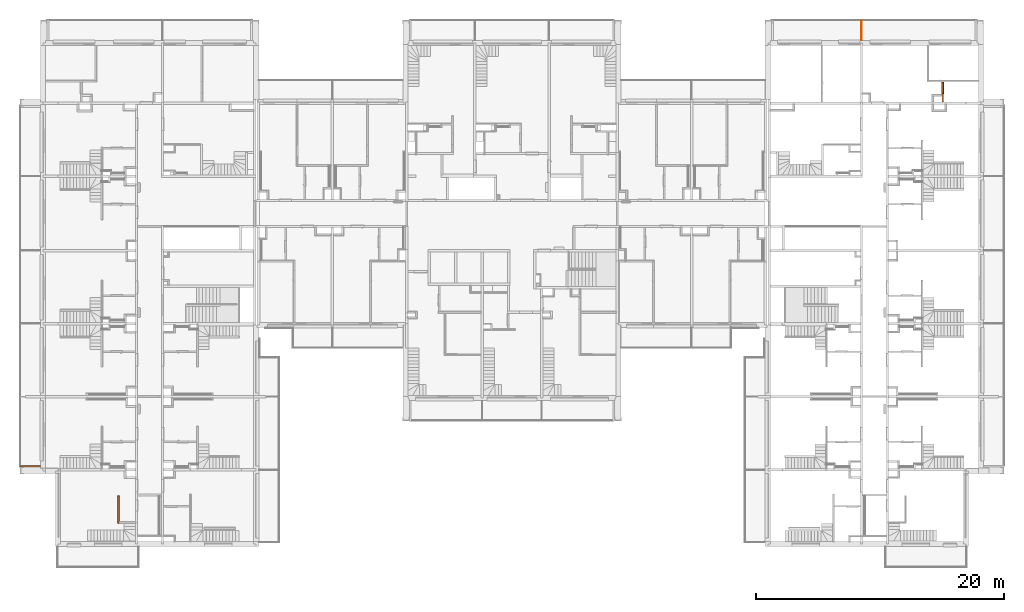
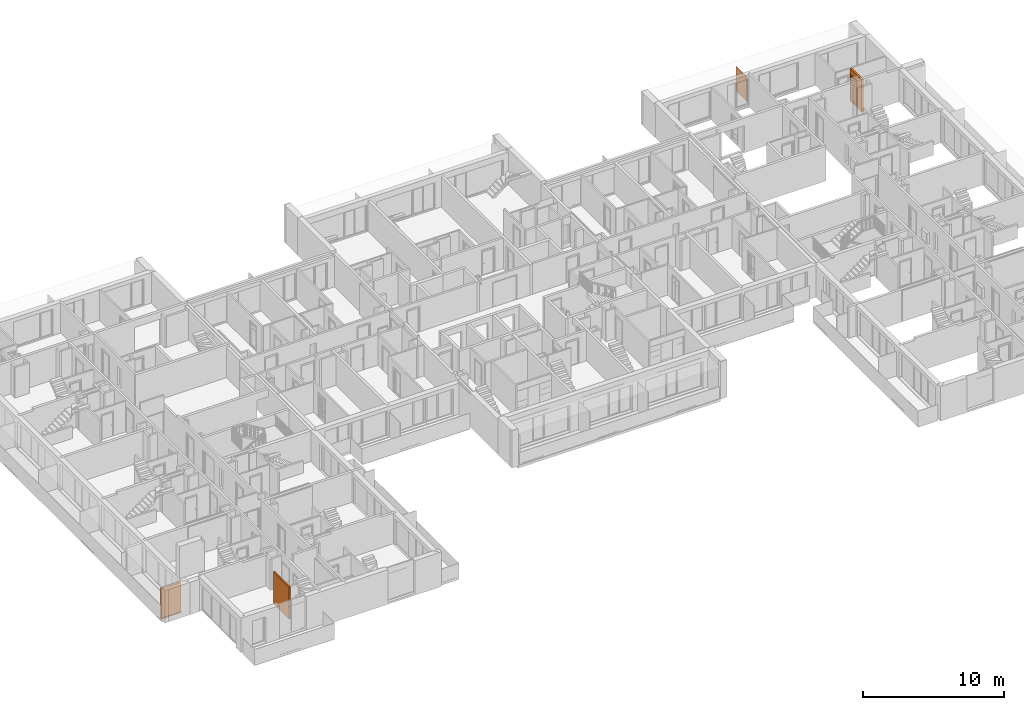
# One storey, part 36 of 61: 5 proxies, 1 opening.
"""IFC2X3 building model written with IfcOpenShell, lengths in millimetres."""

from ifc_helpers import new_model, entity, si_unit, converted_unit, derived_unit, money_unit, direction, frame, origin_with_axes, origin_2d_with_axis, place, context, subcontext, project, spatial, polyline, rectangle, outline, extrude, open_shell, faceted_brep, surface_model, source, transform, mapped, material, type_object, element, fill, save


model = new_model("IFC2X3")

# Units and contexts
model_context = context("Model", 3, precision=0.01, world=origin_with_axes(), true_north=direction((0.34421633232, 0.938890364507)))
body_context = subcontext(model_context, "Body", "Model", "MODEL_VIEW")
ifc_project = project(units=[si_unit("LENGTHUNIT", "METRE", prefix="MILLI"), si_unit("AREAUNIT", "SQUARE_METRE"), si_unit("VOLUMEUNIT", "CUBIC_METRE"), converted_unit("PLANEANGLEUNIT", "DEGREE", entity("IfcPlaneAngleMeasure", 0.0174532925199), si_unit("PLANEANGLEUNIT", "RADIAN"), dimensions=[0, 0, 0, 0, 0, 0, 0]), si_unit("SOLIDANGLEUNIT", "STERADIAN"), money_unit("USD"), converted_unit("TIMEUNIT", "Year", entity("IfcTimeMeasure", 31556926.0), si_unit("TIMEUNIT", "SECOND"), dimensions=[0, 0, 1, 0, 0, 0, 0]), si_unit("MASSUNIT", "GRAM", prefix="KILO"), si_unit("THERMODYNAMICTEMPERATUREUNIT", "DEGREE_CELSIUS"), si_unit("LUMINOUSINTENSITYUNIT", "LUMEN"), si_unit("ENERGYUNIT", "JOULE", prefix="MEGA"), derived_unit("THERMALCONDUCTANCEUNIT", [(si_unit("POWERUNIT", "WATT"), 1), (si_unit("LENGTHUNIT", "METRE"), -1), (si_unit("THERMODYNAMICTEMPERATUREUNIT", "KELVIN"), -1)]), derived_unit("SPECIFICHEATCAPACITYUNIT", [(si_unit("ENERGYUNIT", "JOULE"), 1), (si_unit("MASSUNIT", "GRAM", prefix="KILO"), -1), (si_unit("THERMODYNAMICTEMPERATUREUNIT", "KELVIN"), -1)]), derived_unit("MASSDENSITYUNIT", [(si_unit("MASSUNIT", "GRAM", prefix="KILO"), 1), (si_unit("VOLUMEUNIT", "CUBIC_METRE"), -1)])], contexts=[model_context])

# Site, building, storey
site_placement = place(None, origin_with_axes())
site = spatial("IfcSite", under=ifc_project, at=site_placement, Name="USTRONIE MORSKIE", CompositionType="ELEMENT")
building_placement = place(site_placement, origin_with_axes())
building = spatial("IfcBuilding", under=site, at=building_placement, Name="Budynek", CompositionType="ELEMENT")
storey_placement = place(building_placement, frame((0.0, 0.0, 13000.0), z_axis=(0.0, 0.0, 1.0), x_axis=(1.0, 0.0, 0.0)))
storey = spatial("IfcBuildingStorey", under=building, at=storey_placement, Name="PIĘTRO 4", CompositionType="ELEMENT", Elevation=13000.0)

# Proxy
ifc_material_1 = material(Name="Bloczki silikatowe")
building_element_proxy_type_1 = type_object("IfcBuildingElementProxyType", Name="Bloczki silikatowe 120", PredefinedType="NOTDEFINED")
proxy_1_placement = place(storey_placement, frame((356037.920919, 710861.199036, -160.0), z_axis=(0.0, 0.0, 1.0), x_axis=(0.0, 1.0, 0.0)))
element("IfcBuildingElementProxy", 1, at=proxy_1_placement, inside=storey, type_object=building_element_proxy_type_1, material=ifc_material_1, Name="SW-04", context=body_context, shape_type="Brep", body=[
    faceted_brep([(-59.9999999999, -60.0, 2800.0), (2139.99999956, -60.0, 2800.0), (2139.99999956, 60.0, 2800.0), (-59.9999999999, 60.0, 2800.0), (-59.9999999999, -60.0, 0.0), (2139.99999956, -60.0, 0.0), (2139.99999956, 60.0, 0.0), (-59.9999999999, 60.0, 0.0)], [[[0, 1, 2, 3]], [[4, 5, 1, 0]], [[2, 1, 5, 6]], [[3, 2, 6, 7]], [[4, 0, 3, 7]], [[7, 6, 5, 4]]]),
])

# Proxies, opening
building_element_proxy_type_2 = type_object("IfcBuildingElementProxyType", Name="Bloczki silikatowe 150", PredefinedType="NOTDEFINED")
proxy_2_placement = place(storey_placement, frame((422592.920919, 744701.199036, -160.0), z_axis=(0.0, 0.0, 1.0), x_axis=(0.0, 1.0, 0.0)))
proxy_2 = element("IfcBuildingElementProxy", 2, at=proxy_2_placement, inside=storey, type_object=building_element_proxy_type_2, material=ifc_material_1, Name="SW-03", context=body_context, shape_type="Brep", body=[
    faceted_brep([(1720.0, 75.0, 0.0), (1720.0, -75.0, 0.0), (100.0, -75.0, 0.0), (100.0, 75.0, 0.0), (1720.0, 75.0, 2800.0), (1720.0, -75.0, 2800.0), (100.0, -75.0, 2800.0), (100.0, 75.0, 2800.0)], [[[0, 1, 2, 3]], [[1, 0, 4, 5]], [[1, 5, 6, 2]], [[7, 3, 2, 6]], [[4, 0, 3, 7]], [[5, 4, 7, 6]]]),
])
opening_placement = place(proxy_2_placement, frame((1220.0, 0.0, 160.0), z_axis=(0.0, 0.0, 1.0), x_axis=(1.0, 0.0, 0.0)))
opening = element("IfcOpeningElement", 3, at=opening_placement, cuts=proxy_2, Name="Dw.4", context=body_context, shape_type="SweptSolid", body=[
    extrude(rectangle(XDim=920.0, YDim=2070.0, at=origin_2d_with_axis()), frame((0.0, -150.0, 1035.0), z_axis=(0.0, -1.0, 0.0), x_axis=(-1.0, 0.0, 0.0)), (0.0, 0.0, -1.0), 450.0),
    extrude(rectangle(XDim=994.0, YDim=2177.0, at=origin_2d_with_axis()), frame((0.0, -75.0, 1088.5), z_axis=(0.0, -1.0, 0.0), x_axis=(-1.0, 0.0, 0.0)), (0.0, 0.0, 1.0), 150.0),
    extrude(rectangle(XDim=994.0, YDim=2177.0, at=origin_2d_with_axis()), frame((0.0, 75.0, 1088.5), z_axis=(0.0, 1.0, 0.0), x_axis=(-1.0, 0.0, 0.0)), (0.0, 0.0, 1.0), 150.0),
])
building_element_proxy_type_3 = type_object("IfcBuildingElementProxyType", Name="Drzwi 23", PredefinedType="NOTDEFINED")
shared_shape = source(origin_with_axes(), body_context, "Body", "SurfaceModel", [
    faceted_brep([(460.0, -115.0, 0.0), (460.0, -150.0, 0.0), (435.0, -150.0, 0.0), (435.0, -115.0, 0.0), (460.0, -115.0, 2070.0), (460.0, -150.0, 2070.0), (435.0, -150.0, 2045.0), (435.0, -115.0, 2045.0)], [[[0, 1, 2, 3]], [[4, 5, 1, 0]], [[1, 5, 6, 2]], [[3, 2, 6, 7]], [[0, 3, 7, 4]], [[7, 6, 5, 4]]]),
    faceted_brep([(-460.0, -115.0, 2070.0), (-460.0, -150.0, 2070.0), (-435.0, -150.0, 2045.0), (-435.0, -115.0, 2045.0), (-460.0, -115.0, 0.0), (-460.0, -150.0, 0.0), (-435.0, -150.0, 0.0), (-435.0, -115.0, 0.0)], [[[0, 1, 2, 3]], [[4, 5, 1, 0]], [[1, 5, 6, 2]], [[3, 2, 6, 7]], [[0, 3, 7, 4]], [[7, 6, 5, 4]]]),
    faceted_brep([(435.0, -115.0, 2045.0), (435.0, -150.0, 2045.0), (-435.0, -150.0, 2045.0), (-435.0, -115.0, 2045.0), (460.0, -115.0, 2070.0), (460.0, -150.0, 2070.0), (-460.0, -150.0, 2070.0), (-460.0, -115.0, 2070.0)], [[[0, 1, 2, 3]], [[4, 5, 1, 0]], [[1, 5, 6, 2]], [[3, 2, 6, 7]], [[0, 3, 7, 4]], [[7, 6, 5, 4]]]),
    faceted_brep([(497.0, -169.0, 0.0), (447.0, -169.0, 0.0), (447.0, -150.0, 0.0), (497.0, -150.0, 0.0), (497.0, -169.0, 2177.0), (447.0, -169.0, 2057.0), (447.0, -150.0, 2057.0), (497.0, -150.0, 2177.0)], [[[0, 1, 2, 3]], [[0, 4, 5, 1]], [[1, 5, 6, 2]], [[3, 2, 6, 7]], [[4, 0, 3, 7]], [[5, 4, 7, 6]]]),
    faceted_brep([(-497.0, -169.0, 2177.0), (-447.0, -169.0, 2057.0), (-447.0, -150.0, 2057.0), (-497.0, -150.0, 2177.0), (-497.0, -169.0, 0.0), (-447.0, -169.0, 0.0), (-447.0, -150.0, 0.0), (-497.0, -150.0, 0.0)], [[[0, 1, 2, 3]], [[0, 4, 5, 1]], [[1, 5, 6, 2]], [[3, 2, 6, 7]], [[4, 0, 3, 7]], [[5, 4, 7, 6]]]),
    faceted_brep([(497.0, -169.0, 2177.0), (447.0, -169.0, 2057.0), (447.0, -150.0, 2057.0), (497.0, -150.0, 2177.0), (-497.0, -169.0, 2177.0), (-447.0, -169.0, 2057.0), (-447.0, -150.0, 2057.0), (-497.0, -150.0, 2177.0)], [[[0, 1, 2, 3]], [[0, 4, 5, 1]], [[1, 5, 6, 2]], [[3, 2, 6, 7]], [[4, 0, 3, 7]], [[5, 4, 7, 6]]]),
    faceted_brep([(497.0, 19.0, 0.0), (497.0, 0.0, 0.0), (447.0, 0.0, 0.0), (447.0, 19.0, 0.0), (497.0, 19.0, 2177.0), (497.0, 0.0, 2177.0), (447.0, 0.0, 2057.0), (447.0, 19.0, 2057.0)], [[[0, 1, 2, 3]], [[4, 5, 1, 0]], [[1, 5, 6, 2]], [[3, 2, 6, 7]], [[0, 3, 7, 4]], [[7, 6, 5, 4]]]),
    faceted_brep([(-497.0, 19.0, 2177.0), (-497.0, 0.0, 2177.0), (-447.0, 0.0, 2057.0), (-447.0, 19.0, 2057.0), (-497.0, 19.0, 0.0), (-497.0, 0.0, 0.0), (-447.0, 0.0, 0.0), (-447.0, 19.0, 0.0)], [[[0, 1, 2, 3]], [[4, 5, 1, 0]], [[1, 5, 6, 2]], [[3, 2, 6, 7]], [[0, 3, 7, 4]], [[7, 6, 5, 4]]]),
    faceted_brep([(497.0, 19.0, 2177.0), (497.0, 0.0, 2177.0), (447.0, 0.0, 2057.0), (447.0, 19.0, 2057.0), (-497.0, 19.0, 2177.0), (-497.0, 0.0, 2177.0), (-447.0, 0.0, 2057.0), (-447.0, 19.0, 2057.0)], [[[0, 1, 2, 3]], [[4, 5, 1, 0]], [[1, 5, 6, 2]], [[3, 2, 6, 7]], [[0, 3, 7, 4]], [[7, 6, 5, 4]]]),
    faceted_brep([(400.0, -40.0, 0.0), (400.0, -115.0, 0.0), (400.0, -115.0, 2000.0), (400.0, -40.0, 2000.0), (412.0, -40.0, 0.0), (412.0, 0.0, 0.0), (460.0, 0.0, 0.0), (460.0, -115.0, 0.0), (460.0, -115.0, 2000.0), (412.0, -40.0, 2000.0), (460.0, 0.0, 2000.0), (412.0, 0.0, 2000.0)], [[[0, 1, 2, 3]], [[4, 5, 6, 7, 1, 0]], [[1, 7, 8, 2]], [[9, 3, 2, 8, 10, 11]], [[9, 4, 0, 3]], [[11, 5, 4, 9]], [[11, 10, 6, 5]], [[6, 10, 8, 7]]]),
    faceted_brep([(-412.0, -40.0, 2000.0), (-412.0, 0.0, 2000.0), (-460.0, 0.0, 2000.0), (-460.0, -115.0, 2000.0), (-400.0, -115.0, 2000.0), (-400.0, -40.0, 2000.0), (-412.0, -40.0, 0.0), (-412.0, 0.0, 0.0), (-460.0, 0.0, 0.0), (-460.0, -115.0, 0.0), (-400.0, -115.0, 0.0), (-400.0, -40.0, 0.0)], [[[0, 1, 2, 3, 4, 5]], [[0, 6, 7, 1]], [[7, 8, 2, 1]], [[2, 8, 9, 3]], [[3, 9, 10, 4]], [[5, 4, 10, 11]], [[5, 11, 6, 0]], [[6, 11, 10, 9, 8, 7]]]),
    faceted_brep([(412.0, 0.0, 2012.0), (-412.0, 0.0, 2012.0), (-412.0, 0.0, 2000.0), (-460.0, 0.0, 2000.0), (-460.0, 0.0, 2070.0), (460.0, 0.0, 2070.0), (460.0, 0.0, 2000.0), (412.0, 0.0, 2000.0), (412.0, -40.0, 2012.0), (-412.0, -40.0, 2012.0), (-412.0, -40.0, 2000.0), (-400.0, -40.0, 2000.0), (-400.0, -115.0, 2000.0), (-460.0, -115.0, 2000.0), (-460.0, -115.0, 2070.0), (460.0, -115.0, 2070.0), (460.0, -115.0, 2000.0), (412.0, -40.0, 2000.0), (400.0, -115.0, 2000.0), (400.0, -40.0, 2000.0)], [[[0, 1, 2, 3, 4, 5, 6, 7]], [[0, 8, 9, 1]], [[1, 9, 10, 2]], [[10, 11, 12, 13, 3, 2]], [[4, 3, 13, 14]], [[5, 4, 14, 15]], [[6, 5, 15, 16]], [[17, 7, 6, 16, 18, 19]], [[7, 17, 8, 0]], [[10, 9, 8, 17, 19, 11]], [[19, 18, 12, 11]], [[12, 18, 16, 15, 14, 13]]]),
    faceted_brep([(390.5, -40.0, 1060.0), (333.5, -40.0, 1060.0), (333.5, -43.0, 1060.0), (390.5, -43.0, 1060.0), (390.5, -40.0, 870.0), (333.5, -40.0, 870.0), (333.5, -43.0, 870.0), (390.5, -43.0, 870.0)], [[[0, 1, 2, 3]], [[0, 4, 5, 1]], [[1, 5, 6, 2]], [[3, 2, 6, 7]], [[4, 0, 3, 7]], [[5, 4, 7, 6]]]),
    faceted_brep([(362.0, -104.0, 990.0), (367.0, -104.0, 991.339745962), (367.0, -111.0, 991.339745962), (362.0, -111.0, 990.0), (337.0, -104.0, 990.0), (337.0, -104.0, 1010.0), (362.0, -104.0, 1010.0), (367.0, -104.0, 1008.66025404), (370.660254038, -104.0, 1005.0), (372.0, -104.0, 1000.0), (370.660254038, -104.0, 995.0), (370.660254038, -111.0, 995.0), (372.0, -111.0, 1000.0), (370.660254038, -111.0, 1005.0), (367.0, -111.0, 1008.66025404), (362.0, -111.0, 1010.0), (337.0, -111.0, 1010.0), (337.0, -111.0, 990.0)], [[[0, 1, 2, 3]], [[0, 4, 5, 6, 7, 8, 9, 10, 1]], [[1, 10, 11, 2]], [[3, 2, 11, 12, 13, 14, 15, 16, 17]], [[4, 0, 3, 17]], [[5, 4, 17, 16]], [[6, 5, 16, 15]], [[7, 6, 15, 14]], [[8, 7, 14, 13]], [[9, 8, 13, 12]], [[10, 9, 12, 11]]]),
    surface_model("IfcShellBasedSurfaceModel", [(337.0, -104.0, 1010.0), (323.901717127, -104.0, 1009.60730092), (323.596090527, -111.0, 1009.60730092), (337.0, -104.0, 990.0), (323.901717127, -104.0, 990.392699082), (296.890283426, -108.663544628, 1008.82190275), (337.0, -111.0, 1010.0), (337.0, -111.0, 990.0), (297.804837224, -101.716818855, 991.178097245), (297.804837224, -101.716818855, 1008.82190275), (296.890283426, -108.663544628, 991.178097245), (323.596090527, -111.0, 990.392699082), (272.006256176, -97.1678329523, 991.963495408), (272.006256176, -97.1678329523, 1008.03650459), (270.489735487, -104.008415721, 1008.03650459), (270.489735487, -104.008415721, 991.963495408), (246.702316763, -90.3876628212, 992.748893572), (246.702316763, -90.3876628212, 1007.25110643), (244.59537082, -97.0700416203, 1007.25110643), (244.59537082, -97.0700416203, 992.748893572), (238.829442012, -87.5221707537, 993.0), (238.829442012, -87.5221707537, 1007.0), (236.538795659, -94.1376880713, 1007.0), (236.538795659, -94.1376880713, 993.0)], [open_shell([[[0, 1, 2]], [[0, 3, 4, 1]], [[1, 5, 2]], [[0, 2, 6]], [[4, 3, 7]], [[1, 4, 8, 9]], [[1, 9, 5]], [[2, 5, 10, 11]], [[6, 2, 11, 7]], [[4, 7, 11]], [[8, 4, 11]], [[9, 8, 12, 13]], [[9, 14, 5]], [[5, 14, 15, 10]], [[8, 11, 10]], [[12, 8, 10]], [[13, 12, 16, 17]], [[9, 13, 14]], [[14, 18, 19, 15]], [[12, 10, 15]], [[16, 12, 15]], [[17, 16, 20, 21]], [[13, 17, 18]], [[13, 18, 14]], [[18, 22, 23, 19]], [[16, 15, 19]], [[20, 16, 19]], [[21, 20, 23, 22]], [[17, 21, 22]], [[17, 22, 18]], [[20, 19, 23]]])]),
    faceted_brep([(351.607695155, -53.0, 994.0), (350.0, -53.0, 1000.0), (349.0, -43.0, 1000.0), (350.741669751, -43.0, 993.5), (356.0, -53.0, 989.607695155), (362.0, -53.0, 988.0), (368.0, -53.0, 989.607695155), (372.392304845, -53.0, 994.0), (374.0, -53.0, 1000.0), (372.392304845, -53.0, 1006.0), (368.0, -53.0, 1010.39230485), (362.0, -53.0, 1012.0), (356.0, -53.0, 1010.39230485), (351.607695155, -53.0, 1006.0), (350.741669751, -43.0, 1006.5), (355.5, -43.0, 1011.25833025), (362.0, -43.0, 1013.0), (368.5, -43.0, 1011.25833025), (373.258330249, -43.0, 1006.5), (375.0, -43.0, 1000.0), (373.258330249, -43.0, 993.5), (368.5, -43.0, 988.741669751), (362.0, -43.0, 987.0), (355.5, -43.0, 988.741669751)], [[[0, 1, 2, 3]], [[1, 0, 4, 5, 6, 7, 8, 9, 10, 11, 12, 13]], [[1, 13, 14, 2]], [[2, 14, 15, 16, 17, 18, 19, 20, 21, 22, 23, 3]], [[4, 0, 3, 23]], [[5, 4, 23, 22]], [[6, 5, 22, 21]], [[7, 6, 21, 20]], [[8, 7, 20, 19]], [[9, 8, 19, 18]], [[10, 9, 18, 17]], [[11, 10, 17, 16]], [[12, 11, 16, 15]], [[13, 12, 15, 14]]]),
    faceted_brep([(344.679491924, -47.0, 895.0), (342.0, -47.0, 905.0), (340.0, -43.0, 905.0), (342.947441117, -43.0, 894.0), (352.0, -47.0, 887.679491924), (362.0, -47.0, 885.0), (372.0, -47.0, 887.679491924), (379.320508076, -47.0, 895.0), (382.0, -47.0, 905.0), (379.320508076, -47.0, 915.0), (372.0, -47.0, 922.320508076), (362.0, -47.0, 925.0), (352.0, -47.0, 922.320508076), (344.679491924, -47.0, 915.0), (342.947441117, -43.0, 916.0), (351.0, -43.0, 924.052558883), (362.0, -43.0, 927.0), (373.0, -43.0, 924.052558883), (381.052558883, -43.0, 916.0), (384.0, -43.0, 905.0), (381.052558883, -43.0, 894.0), (373.0, -43.0, 885.947441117), (362.0, -43.0, 883.0), (351.0, -43.0, 885.947441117)], [[[0, 1, 2, 3]], [[1, 0, 4, 5, 6, 7, 8, 9, 10, 11, 12, 13]], [[1, 13, 14, 2]], [[2, 14, 15, 16, 17, 18, 19, 20, 21, 22, 23, 3]], [[4, 0, 3, 23]], [[5, 4, 23, 22]], [[6, 5, 22, 21]], [[7, 6, 21, 20]], [[8, 7, 20, 19]], [[9, 8, 19, 18]], [[10, 9, 18, 17]], [[11, 10, 17, 16]], [[12, 11, 16, 15]], [[13, 12, 15, 14]]]),
    faceted_brep([(357.050252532, -49.0, 909.050252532), (355.0, -49.0, 914.0), (354.0, -47.0, 914.0), (356.343145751, -47.0, 908.343145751), (362.0, -49.0, 907.0), (366.949747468, -49.0, 909.050252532), (369.0, -49.0, 914.0), (366.949747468, -49.0, 918.949747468), (362.0, -49.0, 921.0), (357.050252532, -49.0, 918.949747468), (356.343145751, -47.0, 919.656854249), (362.0, -47.0, 922.0), (367.656854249, -47.0, 919.656854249), (370.0, -47.0, 914.0), (367.656854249, -47.0, 908.343145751), (362.0, -47.0, 906.0)], [[[0, 1, 2, 3]], [[1, 0, 4, 5, 6, 7, 8, 9]], [[1, 9, 10, 2]], [[2, 10, 11, 12, 13, 14, 15, 3]], [[4, 0, 3, 15]], [[5, 4, 15, 14]], [[6, 5, 14, 13]], [[7, 6, 13, 12]], [[8, 7, 12, 11]], [[9, 8, 11, 10]]]),
    faceted_brep([(362.0, -53.0, 1010.0), (357.0, -53.0, 1008.66025404), (357.0, -104.0, 1008.66025404), (362.0, -104.0, 1010.0), (367.0, -53.0, 1008.66025404), (370.660254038, -53.0, 1005.0), (372.0, -53.0, 1000.0), (370.660254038, -53.0, 995.0), (367.0, -53.0, 991.339745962), (362.0, -53.0, 990.0), (357.0, -53.0, 991.339745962), (353.339745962, -53.0, 995.0), (352.0, -53.0, 1000.0), (353.339745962, -53.0, 1005.0), (353.339745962, -104.0, 1005.0), (352.0, -104.0, 1000.0), (353.339745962, -104.0, 995.0), (357.0, -104.0, 991.339745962), (362.0, -104.0, 990.0), (367.0, -104.0, 991.339745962), (370.660254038, -104.0, 995.0), (372.0, -104.0, 1000.0), (370.660254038, -104.0, 1005.0), (367.0, -104.0, 1008.66025404)], [[[0, 1, 2, 3]], [[0, 4, 5, 6, 7, 8, 9, 10, 11, 12, 13, 1]], [[1, 13, 14, 2]], [[3, 2, 14, 15, 16, 17, 18, 19, 20, 21, 22, 23]], [[4, 0, 3, 23]], [[5, 4, 23, 22]], [[6, 5, 22, 21]], [[7, 6, 21, 20]], [[8, 7, 20, 19]], [[9, 8, 19, 18]], [[10, 9, 18, 17]], [[11, 10, 17, 16]], [[12, 11, 16, 15]], [[13, 12, 15, 14]]]),
    faceted_brep([(390.5, 0.0, 1060.0), (390.5, 3.0, 1060.0), (333.5, 3.0, 1060.0), (333.5, 0.0, 1060.0), (390.5, 0.0, 870.0), (390.5, 3.0, 870.0), (333.5, 3.0, 870.0), (333.5, 0.0, 870.0)], [[[0, 1, 2, 3]], [[4, 5, 1, 0]], [[1, 5, 6, 2]], [[3, 2, 6, 7]], [[0, 3, 7, 4]], [[7, 6, 5, 4]]]),
    faceted_brep([(362.0, 64.0, 990.0), (362.0, 71.0, 990.0), (367.0, 71.0, 991.339745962), (367.0, 64.0, 991.339745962), (337.0, 64.0, 990.0), (337.0, 71.0, 990.0), (337.0, 71.0, 1010.0), (362.0, 71.0, 1010.0), (367.0, 71.0, 1008.66025404), (370.660254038, 71.0, 1005.0), (372.0, 71.0, 1000.0), (370.660254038, 71.0, 995.0), (370.660254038, 64.0, 995.0), (372.0, 64.0, 1000.0), (370.660254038, 64.0, 1005.0), (367.0, 64.0, 1008.66025404), (362.0, 64.0, 1010.0), (337.0, 64.0, 1010.0)], [[[0, 1, 2, 3]], [[4, 5, 1, 0]], [[1, 5, 6, 7, 8, 9, 10, 11, 2]], [[3, 2, 11, 12]], [[0, 3, 12, 13, 14, 15, 16, 17, 4]], [[17, 6, 5, 4]], [[16, 7, 6, 17]], [[15, 8, 7, 16]], [[14, 9, 8, 15]], [[13, 10, 9, 14]], [[12, 11, 10, 13]]]),
    surface_model("IfcShellBasedSurfaceModel", [(337.0, 64.0, 1010.0), (323.596090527, 71.0, 1009.60730092), (323.901717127, 64.0, 1009.60730092), (337.0, 71.0, 1010.0), (296.890283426, 68.6635446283, 1008.82190275), (323.901717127, 64.0, 990.392699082), (337.0, 64.0, 990.0), (337.0, 71.0, 990.0), (323.596090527, 71.0, 990.392699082), (296.890283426, 68.6635446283, 991.178097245), (297.804837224, 61.716818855, 1008.82190275), (297.804837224, 61.716818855, 991.178097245), (270.489735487, 64.0084157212, 991.963495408), (270.489735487, 64.0084157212, 1008.03650459), (272.006256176, 57.1678329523, 1008.03650459), (272.006256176, 57.1678329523, 991.963495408), (244.59537082, 57.0700416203, 992.748893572), (244.59537082, 57.0700416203, 1007.25110643), (246.702316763, 50.3876628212, 1007.25110643), (246.702316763, 50.3876628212, 992.748893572), (236.538795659, 54.1376880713, 993.0), (236.538795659, 54.1376880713, 1007.0), (238.829442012, 47.5221707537, 1007.0), (238.829442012, 47.5221707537, 993.0)], [open_shell([[[0, 1, 2]], [[0, 3, 1]], [[2, 1, 4]], [[0, 2, 5, 6]], [[3, 7, 8, 1]], [[1, 8, 9, 4]], [[2, 4, 10]], [[2, 10, 11, 5]], [[5, 7, 6]], [[5, 8, 7]], [[11, 9, 8]], [[4, 9, 12, 13]], [[10, 4, 13]], [[10, 14, 15, 11]], [[11, 8, 5]], [[15, 9, 11]], [[15, 12, 9]], [[13, 12, 16, 17]], [[10, 13, 14]], [[14, 18, 19, 15]], [[19, 12, 15]], [[19, 16, 12]], [[17, 16, 20, 21]], [[14, 13, 17]], [[14, 17, 18]], [[18, 22, 23, 19]], [[23, 16, 19]], [[23, 20, 16]], [[22, 21, 20, 23]], [[18, 17, 21]], [[18, 21, 22]]])]),
    faceted_brep([(351.607695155, 13.0, 994.0), (350.741669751, 3.0, 993.5), (349.0, 3.0, 1000.0), (350.0, 13.0, 1000.0), (356.0, 13.0, 989.607695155), (355.5, 3.0, 988.741669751), (362.0, 3.0, 987.0), (368.5, 3.0, 988.741669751), (373.258330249, 3.0, 993.5), (375.0, 3.0, 1000.0), (373.258330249, 3.0, 1006.5), (368.5, 3.0, 1011.25833025), (362.0, 3.0, 1013.0), (355.5, 3.0, 1011.25833025), (350.741669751, 3.0, 1006.5), (351.607695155, 13.0, 1006.0), (356.0, 13.0, 1010.39230485), (362.0, 13.0, 1012.0), (368.0, 13.0, 1010.39230485), (372.392304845, 13.0, 1006.0), (374.0, 13.0, 1000.0), (372.392304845, 13.0, 994.0), (368.0, 13.0, 989.607695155), (362.0, 13.0, 988.0)], [[[0, 1, 2, 3]], [[4, 5, 1, 0]], [[2, 1, 5, 6, 7, 8, 9, 10, 11, 12, 13, 14]], [[3, 2, 14, 15]], [[3, 15, 16, 17, 18, 19, 20, 21, 22, 23, 4, 0]], [[23, 6, 5, 4]], [[22, 7, 6, 23]], [[21, 8, 7, 22]], [[20, 9, 8, 21]], [[19, 10, 9, 20]], [[18, 11, 10, 19]], [[17, 12, 11, 18]], [[16, 13, 12, 17]], [[15, 14, 13, 16]]]),
    faceted_brep([(344.679491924, 7.0, 895.0), (342.947441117, 3.0, 894.0), (340.0, 3.0, 905.0), (342.0, 7.0, 905.0), (352.0, 7.0, 887.679491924), (351.0, 3.0, 885.947441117), (362.0, 3.0, 883.0), (373.0, 3.0, 885.947441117), (381.052558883, 3.0, 894.0), (384.0, 3.0, 905.0), (381.052558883, 3.0, 916.0), (373.0, 3.0, 924.052558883), (362.0, 3.0, 927.0), (351.0, 3.0, 924.052558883), (342.947441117, 3.0, 916.0), (344.679491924, 7.0, 915.0), (352.0, 7.0, 922.320508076), (362.0, 7.0, 925.0), (372.0, 7.0, 922.320508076), (379.320508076, 7.0, 915.0), (382.0, 7.0, 905.0), (379.320508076, 7.0, 895.0), (372.0, 7.0, 887.679491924), (362.0, 7.0, 885.0)], [[[0, 1, 2, 3]], [[4, 5, 1, 0]], [[2, 1, 5, 6, 7, 8, 9, 10, 11, 12, 13, 14]], [[3, 2, 14, 15]], [[3, 15, 16, 17, 18, 19, 20, 21, 22, 23, 4, 0]], [[23, 6, 5, 4]], [[22, 7, 6, 23]], [[21, 8, 7, 22]], [[20, 9, 8, 21]], [[19, 10, 9, 20]], [[18, 11, 10, 19]], [[17, 12, 11, 18]], [[16, 13, 12, 17]], [[15, 14, 13, 16]]]),
    faceted_brep([(357.050252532, 9.0, 909.050252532), (356.343145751, 7.0, 908.343145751), (354.0, 7.0, 914.0), (355.0, 9.0, 914.0), (362.0, 9.0, 907.0), (362.0, 7.0, 906.0), (367.656854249, 7.0, 908.343145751), (370.0, 7.0, 914.0), (367.656854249, 7.0, 919.656854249), (362.0, 7.0, 922.0), (356.343145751, 7.0, 919.656854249), (357.050252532, 9.0, 918.949747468), (362.0, 9.0, 921.0), (366.949747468, 9.0, 918.949747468), (369.0, 9.0, 914.0), (366.949747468, 9.0, 909.050252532)], [[[0, 1, 2, 3]], [[4, 5, 1, 0]], [[2, 1, 5, 6, 7, 8, 9, 10]], [[3, 2, 10, 11]], [[3, 11, 12, 13, 14, 15, 4, 0]], [[15, 6, 5, 4]], [[14, 7, 6, 15]], [[13, 8, 7, 14]], [[12, 9, 8, 13]], [[11, 10, 9, 12]]]),
    faceted_brep([(362.0, 13.0, 1010.0), (362.0, 64.0, 1010.0), (357.0, 64.0, 1008.66025404), (357.0, 13.0, 1008.66025404), (367.0, 13.0, 1008.66025404), (367.0, 64.0, 1008.66025404), (370.660254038, 64.0, 1005.0), (372.0, 64.0, 1000.0), (370.660254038, 64.0, 995.0), (367.0, 64.0, 991.339745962), (362.0, 64.0, 990.0), (357.0, 64.0, 991.339745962), (353.339745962, 64.0, 995.0), (352.0, 64.0, 1000.0), (353.339745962, 64.0, 1005.0), (353.339745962, 13.0, 1005.0), (352.0, 13.0, 1000.0), (353.339745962, 13.0, 995.0), (357.0, 13.0, 991.339745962), (362.0, 13.0, 990.0), (367.0, 13.0, 991.339745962), (370.660254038, 13.0, 995.0), (372.0, 13.0, 1000.0), (370.660254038, 13.0, 1005.0)], [[[0, 1, 2, 3]], [[4, 5, 1, 0]], [[1, 5, 6, 7, 8, 9, 10, 11, 12, 13, 14, 2]], [[3, 2, 14, 15]], [[0, 3, 15, 16, 17, 18, 19, 20, 21, 22, 23, 4]], [[23, 6, 5, 4]], [[22, 7, 6, 23]], [[21, 8, 7, 22]], [[20, 9, 8, 21]], [[19, 10, 9, 20]], [[18, 11, 10, 19]], [[17, 12, 11, 18]], [[16, 13, 12, 17]], [[15, 14, 13, 16]]]),
    faceted_brep([(-412.0, 0.0, 0.0), (412.0, 0.0, 0.0), (412.0, -40.0, 0.0), (-412.0, -40.0, 0.0), (-412.0, 0.0, 2012.0), (412.0, 0.0, 2012.0), (412.0, -40.0, 2012.0), (-412.0, -40.0, 2012.0)], [[[0, 1, 2, 3]], [[0, 4, 5, 1]], [[1, 5, 6, 2]], [[3, 2, 6, 7]], [[4, 0, 3, 7]], [[5, 4, 7, 6]]]),
])
proxy_3_placement = place(opening_placement, frame((-400.0, 0.0, 0.0), z_axis=(0.0, 0.0, 1.0), x_axis=(1.0, 0.0, 0.0)))
proxy_3 = element("IfcBuildingElementProxy", 4, at=proxy_3_placement, inside=storey, type_object=building_element_proxy_type_3, Name="Dw.4", context=body_context, shape_type="MappedRepresentation", body=[
    mapped(shared_shape, transform((400.0, 75.0, 0.0))),
])
fill(opening, proxy_3)

# Proxies
ifc_material_2 = material(Name="Woda")
building_element_proxy_type_4 = type_object("IfcBuildingElementProxyType", Name="Woda 30", PredefinedType="NOTDEFINED")
proxy_4_placement = place(storey_placement, frame((416017.920941, 749771.199036, 20.0), z_axis=(0.0, 0.0, 1.0), x_axis=(0.0, 1.0, 0.0)))
element("IfcBuildingElementProxy", 5, at=proxy_4_placement, inside=storey, type_object=building_element_proxy_type_4, material=ifc_material_2, Name="Œciana-007", context=body_context, shape_type="SweptSolid", body=[
    extrude(outline(polyline([(0.0, -15.0), (1569.98576119, -15.0), (1569.98576119, 15.0), (0.0, 15.0), (0.0, -15.0)])), origin_with_axes(), (0.0, 0.0, 1.0), 2120.0),
])
ifc_material_3 = material(Name="Laminat")
building_element_proxy_type_5 = type_object("IfcBuildingElementProxyType", Name="Laminat 150", PredefinedType="NOTDEFINED")
proxy_5_placement = place(storey_placement, frame((349757.920919, 715386.199036, -160.0), z_axis=(0.0, 0.0, 1.0), x_axis=(-1.0, 0.0, 0.0)))
element("IfcBuildingElementProxy", 6, at=proxy_5_placement, inside=storey, type_object=building_element_proxy_type_5, material=ifc_material_3, Name="SW-03", context=body_context, shape_type="Brep", body=[
    faceted_brep([(1600.0, 74.9999999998, 10.0000009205), (0.0, 74.9999999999, 9.99999623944), (0.0, 75.0, 2639.99999792), (1600.0, 74.9999999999, 2639.99999792), (1547.49980813, 74.9999999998, 14.9999951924), (1572.49971536, 74.9999999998, 14.9999951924), (1572.49971536, 74.9999999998, 109.999995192), (4.99980812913, 74.9999999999, 109.999995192), (4.99980812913, 74.9999999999, 84.9999951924), (1547.49980813, 74.9999999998, 84.9999951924), (1600.0, -75.0000000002, 10.0000009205), (0.0, -75.0, 9.99999638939), (0.0, -75.0, 2639.99999792), (1600.0, -75.0000000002, 2639.99999792), (1547.49980813, -75.0000000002, 14.9999951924), (1572.49971536, -75.0000000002, 14.9999951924), (1572.49971536, -75.0000000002, 109.999995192), (4.99980812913, -75.0, 109.999995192), (4.99980812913, -75.0, 84.9999951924), (1547.49980813, -75.0000000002, 84.9999951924)], [[[0, 1, 2, 3], [4, 5, 6, 7, 8, 9]], [[10, 11, 1, 0]], [[2, 1, 11, 12]], [[3, 2, 12, 13]], [[13, 10, 0, 3]], [[4, 14, 15, 5]], [[5, 15, 16, 6]], [[6, 16, 17, 7]], [[7, 17, 18, 8]], [[8, 18, 19, 9]], [[9, 19, 14, 4]], [[12, 11, 10, 13], [14, 19, 18, 17, 16, 15]]]),
])

save(model, "model.ifc")
